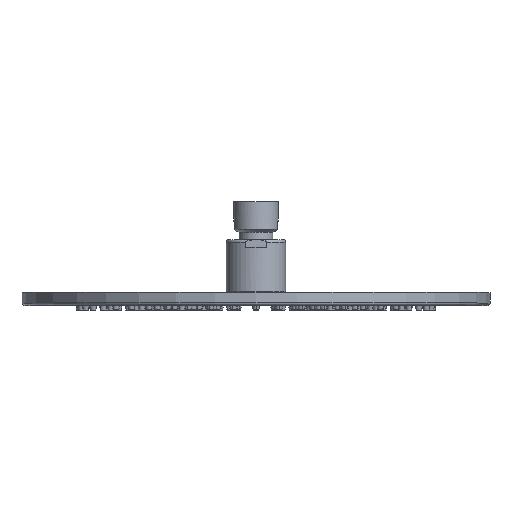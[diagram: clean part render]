
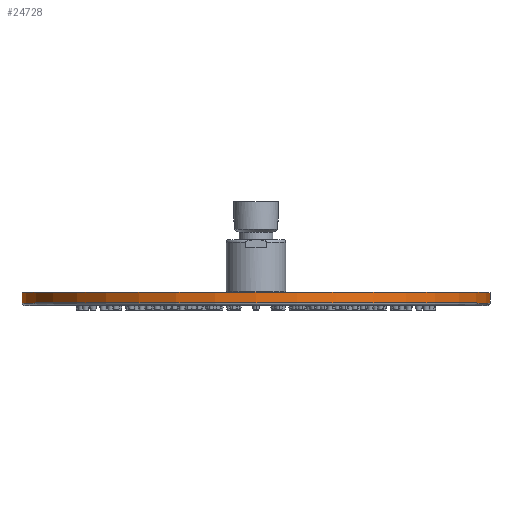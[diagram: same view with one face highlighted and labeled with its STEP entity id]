
A CAD part, top view. The second image highlights one B-rep face of the part: STEP entity #24728.
In plain terms, the highlighted cylindrical face has radius 126 mm (diameter 252 mm), a partial arc.
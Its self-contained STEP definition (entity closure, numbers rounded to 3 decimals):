
#2136=CARTESIAN_POINT('',(0.,1.3,0.));
#2137=DIRECTION('',(0.,1.,0.));
#2138=DIRECTION('',(-1.,0.,0.));
#2139=AXIS2_PLACEMENT_3D('',#2136,#2137,#2138);
#2151=DIRECTION('',(0.,-1.,0.));
#2152=VECTOR('',#2151,5.7);
#2153=CARTESIAN_POINT('',(-126.,7.,0.));
#2154=LINE('',#2153,#2152);
#2155=DIRECTION('',(0.,-1.,0.));
#2156=VECTOR('',#2155,5.7);
#2157=CARTESIAN_POINT('',(126.,7.,0.));
#2158=LINE('',#2157,#2156);
#2159=CARTESIAN_POINT('',(0.,7.,0.));
#2160=DIRECTION('',(0.,-1.,0.));
#2161=DIRECTION('',(1.,0.,0.));
#2162=AXIS2_PLACEMENT_3D('',#2159,#2160,#2161);
#18357=CARTESIAN_POINT('',(126.,1.3,0.));
#18358=VERTEX_POINT('',#18357);
#18359=CARTESIAN_POINT('',(-126.,1.3,0.));
#18360=VERTEX_POINT('',#18359);
#18361=CARTESIAN_POINT('',(126.,7.,0.));
#18362=VERTEX_POINT('',#18361);
#18363=CARTESIAN_POINT('',(-126.,7.,0.));
#18364=VERTEX_POINT('',#18363);
#24716=CARTESIAN_POINT('',(0.,-0.35,0.));
#24717=DIRECTION('',(0.,1.,0.));
#24718=DIRECTION('',(1.,0.,0.));
#24719=AXIS2_PLACEMENT_3D('',#24716,#24717,#24718);
#24720=CYLINDRICAL_SURFACE('',#24719,126.);
#24721=ORIENTED_EDGE('',*,*,#24706,.T.);
#24722=ORIENTED_EDGE('',*,*,#24683,.F.);
#24723=ORIENTED_EDGE('',*,*,#24710,.F.);
#24725=ORIENTED_EDGE('',*,*,#24724,.F.);
#24726=EDGE_LOOP('',(#24721,#24722,#24723,#24725));
#24727=FACE_OUTER_BOUND('',#24726,.F.);
#24728=ADVANCED_FACE('',(#24727),#24720,.T.);
#2140=CIRCLE('',#2139,126.);
#2163=CIRCLE('',#2162,126.);
#24683=EDGE_CURVE('',#18360,#18358,#2140,.T.);
#24706=EDGE_CURVE('',#18362,#18358,#2158,.T.);
#24710=EDGE_CURVE('',#18364,#18360,#2154,.T.);
#24724=EDGE_CURVE('',#18362,#18364,#2163,.T.);
